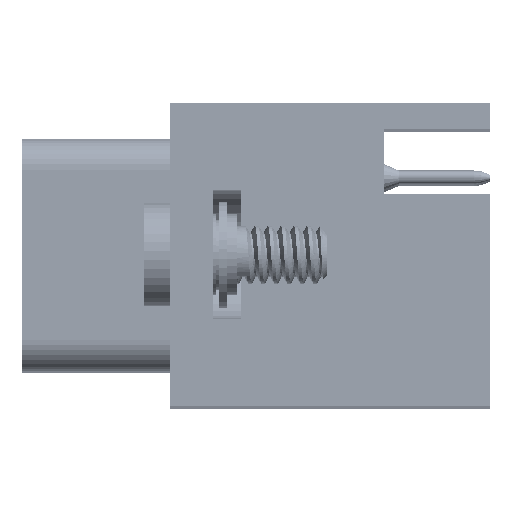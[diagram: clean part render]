
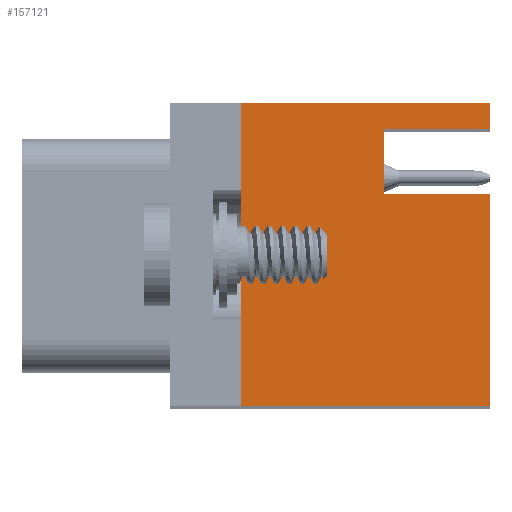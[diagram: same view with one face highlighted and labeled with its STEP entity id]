
A CAD part, top view. The second image highlights one B-rep face of the part: STEP entity #157121.
In plain terms, the highlighted planar face has unit normal (0, 0, 1).
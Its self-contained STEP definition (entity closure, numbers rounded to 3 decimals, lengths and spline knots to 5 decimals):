
#12736=FACE_OUTER_BOUND('',#32280,.T.);
#32280=EDGE_LOOP('',(#102785,#102786,#102787,#102788,#102789,#102790,#102791,
#102792));
#40311=LINE('',#210140,#49176);
#40387=LINE('',#210296,#49252);
#40397=LINE('',#210318,#49262);
#40618=LINE('',#211229,#49483);
#41642=LINE('',#217304,#50507);
#41658=LINE('',#217376,#50523);
#41684=LINE('',#218041,#50549);
#41687=LINE('',#218751,#50552);
#49176=VECTOR('',#176541,0.481);
#49252=VECTOR('',#176667,0.05);
#49262=VECTOR('',#176689,0.409);
#49483=VECTOR('',#177088,0.125);
#50507=VECTOR('',#179222,0.205);
#50523=VECTOR('',#179310,0.205);
#50549=VECTOR('',#180170,0.584);
#50552=VECTOR('',#181187,0.481);
#58185=VERTEX_POINT('',#210137);
#58186=VERTEX_POINT('',#210139);
#58241=VERTEX_POINT('',#210295);
#58246=VERTEX_POINT('',#210315);
#58247=VERTEX_POINT('',#210317);
#58447=VERTEX_POINT('',#211226);
#58448=VERTEX_POINT('',#211228);
#59682=VERTEX_POINT('',#218039);
#73971=EDGE_CURVE('',#58185,#58186,#40311,.T.);
#74047=EDGE_CURVE('',#58241,#58186,#40387,.T.);
#74058=EDGE_CURVE('',#58247,#58246,#40397,.T.);
#74350=EDGE_CURVE('',#58448,#58447,#40618,.T.);
#75920=EDGE_CURVE('',#58246,#58448,#41642,.T.);
#75956=EDGE_CURVE('',#58447,#58241,#41658,.T.);
#76188=EDGE_CURVE('',#59682,#58185,#41684,.T.);
#76391=EDGE_CURVE('',#59682,#58247,#41687,.T.);
#102785=ORIENTED_EDGE('',*,*,#75956,.T.);
#102786=ORIENTED_EDGE('',*,*,#74047,.T.);
#102787=ORIENTED_EDGE('',*,*,#73971,.F.);
#102788=ORIENTED_EDGE('',*,*,#76188,.F.);
#102789=ORIENTED_EDGE('',*,*,#76391,.T.);
#102790=ORIENTED_EDGE('',*,*,#74058,.T.);
#102791=ORIENTED_EDGE('',*,*,#75920,.T.);
#102792=ORIENTED_EDGE('',*,*,#74350,.T.);
#145303=PLANE('',#166060);
#157121=ADVANCED_FACE('',(#12736),#145303,.T.);
#166060=AXIS2_PLACEMENT_3D('',#218750,#181185,#181186);
#176541=DIRECTION('',(1.,0.,0.));
#176667=DIRECTION('',(0.,1.,0.));
#176689=DIRECTION('',(0.,1.,0.));
#177088=DIRECTION('',(0.,1.,0.));
#179222=DIRECTION('',(-1.,0.,0.));
#179310=DIRECTION('',(1.,0.,0.));
#180170=DIRECTION('',(0.,1.,0.));
#181185=DIRECTION('center_axis',(0.,0.,1.));
#181186=DIRECTION('ref_axis',(0.,-1.,0.));
#181187=DIRECTION('',(1.,0.,0.));
#210137=CARTESIAN_POINT('',(0.137,0.584,2.956));
#210139=CARTESIAN_POINT('',(0.618,0.584,2.956));
#210140=CARTESIAN_POINT('',(0.137,0.584,2.956));
#210295=CARTESIAN_POINT('',(0.618,0.534,2.956));
#210296=CARTESIAN_POINT('',(0.618,0.584,2.956));
#210315=CARTESIAN_POINT('',(0.618,0.409,2.956));
#210317=CARTESIAN_POINT('',(0.618,0.,2.956));
#210318=CARTESIAN_POINT('',(0.618,0.584,2.956));
#211226=CARTESIAN_POINT('',(0.413,0.534,2.956));
#211228=CARTESIAN_POINT('',(0.413,0.409,2.956));
#211229=CARTESIAN_POINT('',(0.413,0.23575,2.956));
#217304=CARTESIAN_POINT('',(0.3775,0.409,2.956));
#217376=CARTESIAN_POINT('',(0.3775,0.534,2.956));
#218039=CARTESIAN_POINT('',(0.137,0.,2.956));
#218041=CARTESIAN_POINT('',(0.137,0.146,2.956));
#218750=CARTESIAN_POINT('Origin',(0.137,0.,2.956));
#218751=CARTESIAN_POINT('',(0.137,0.,2.956));
